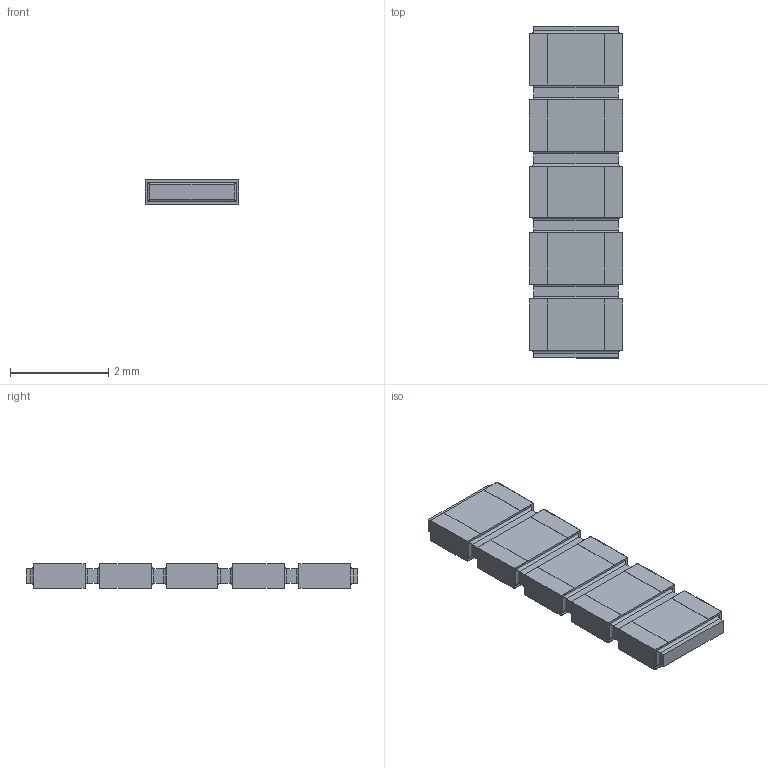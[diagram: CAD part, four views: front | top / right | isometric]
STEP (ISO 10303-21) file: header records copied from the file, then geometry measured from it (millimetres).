
FILE_DESCRIPTION(/* description */ (''),/* implementation_level */ '2;1');
FILE_NAME(/* name */ 'S:\DOCUMENT\AUTOCAD\3D_Modèles\10_3D-pour-VISHAY-COM\PRA\PRA135\PRA135-I2_à_I8\10_IGES\PRA135I5_B-or-N-or-G.stp',/* time_stamp */ '2017-12-18T12:06:59+01:00',/* author */ ('dparmentier'),/* organization */ ('unknown'),/* preprocessor_version */ 'ST-DEVELOPER v17',/* originating_system */ 'Autodesk Inventor 2018',/* authorisation */ '');
FILE_SCHEMA (('AUTOMOTIVE_DESIGN { 1 0 10303 214 3 1 1 }'));
Length unit declared in the file: millimetre
Products named in the file (1): PRA135I5_B-or-N-or-G
Bounding box: 1.91 x 6.75 x 0.5 mm (x, y, z)
Volume: 5.7 mm3; surface area: 62 mm2
Topology: 11 solids, 11 shells, 196 faces, 452 edges, 288 vertices
Faces by surface type: plane 156, cylinder 40
Entity records: 5459 total; most frequent: CARTESIAN_POINT 937, ORIENTED_EDGE 904, DIRECTION 886, EDGE_CURVE 452, LINE 412, VECTOR 412, VERTEX_POINT 288, AXIS2_PLACEMENT_3D 237
